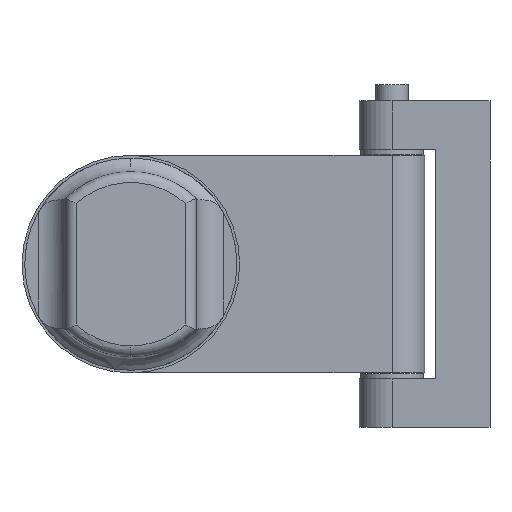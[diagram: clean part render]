
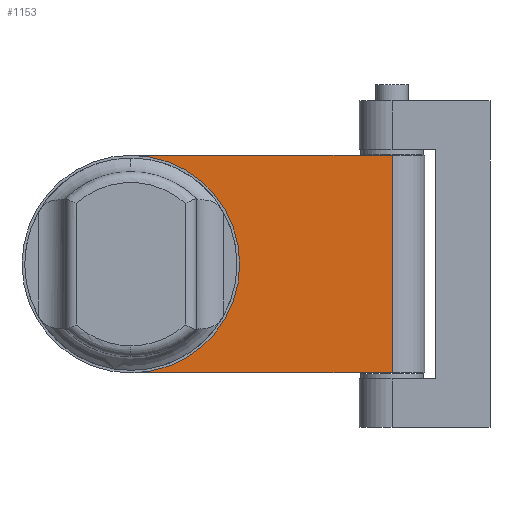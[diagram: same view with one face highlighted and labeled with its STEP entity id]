
A CAD part, front view. The second image highlights one B-rep face of the part: STEP entity #1153.
In plain terms, the highlighted planar face has unit normal (0, -1, 0).
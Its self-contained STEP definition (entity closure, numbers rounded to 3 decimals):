
#95 = ORIENTED_EDGE ( 'NONE', *, *, #2375, .F. ) ;
#216 = LINE ( 'NONE', #970, #2071 ) ;
#250 = CARTESIAN_POINT ( 'NONE',  ( 48., 0., -25. ) ) ;
#649 = FACE_OUTER_BOUND ( 'NONE', #1074, .T. ) ;
#680 = VERTEX_POINT ( 'NONE', #1614 ) ;
#744 = DIRECTION ( 'NONE',  ( 1., 0., 0. ) ) ;
#764 = LINE ( 'NONE', #250, #2384 ) ;
#778 = DIRECTION ( 'NONE',  ( 0., 0., -1. ) ) ;
#964 = DIRECTION ( 'NONE',  ( 0., 1., 0. ) ) ;
#970 = CARTESIAN_POINT ( 'NONE',  ( 0., 0., 20. ) ) ;
#1074 = EDGE_LOOP ( 'NONE', ( #95, #1492, #1574, #2707 ) ) ;
#1153 = ADVANCED_FACE ( 'NONE', ( #649 ), #2164, .F. ) ;
#1270 = LINE ( 'NONE', #2260, #2468 ) ;
#1314 = EDGE_CURVE ( 'NONE', #2427, #2196, #1270, .T. ) ;
#1492 = ORIENTED_EDGE ( 'NONE', *, *, #1981, .F. ) ;
#1564 = EDGE_CURVE ( 'NONE', #2196, #1925, #2366, .T. ) ;
#1574 = ORIENTED_EDGE ( 'NONE', *, *, #1564, .F. ) ;
#1613 = CARTESIAN_POINT ( 'NONE',  ( 0., 0., 20. ) ) ;
#1614 = CARTESIAN_POINT ( 'NONE',  ( 48., 0., 20. ) ) ;
#1626 = CARTESIAN_POINT ( 'NONE',  ( 0., 0., 0. ) ) ;
#1689 = DIRECTION ( 'NONE',  ( 0., 0., 1. ) ) ;
#1700 = CARTESIAN_POINT ( 'NONE',  ( 0., 0., -20. ) ) ;
#1919 = CARTESIAN_POINT ( 'NONE',  ( 48., 0., -20. ) ) ;
#1925 = VERTEX_POINT ( 'NONE', #1613 ) ;
#1971 = DIRECTION ( 'NONE',  ( -1., 0., 0. ) ) ;
#1981 = EDGE_CURVE ( 'NONE', #1925, #680, #216, .T. ) ;
#2071 = VECTOR ( 'NONE', #744, 1000. ) ;
#2164 = PLANE ( 'NONE',  #2815 ) ;
#2196 = VERTEX_POINT ( 'NONE', #1700 ) ;
#2206 = AXIS2_PLACEMENT_3D ( 'NONE', #2608, #2343, #2443 ) ;
#2260 = CARTESIAN_POINT ( 'NONE',  ( 0., 0., -20. ) ) ;
#2343 = DIRECTION ( 'NONE',  ( 0., 1., 0. ) ) ;
#2366 = CIRCLE ( 'NONE', #2206, 20. ) ;
#2375 = EDGE_CURVE ( 'NONE', #680, #2427, #764, .T. ) ;
#2384 = VECTOR ( 'NONE', #778, 1000. ) ;
#2427 = VERTEX_POINT ( 'NONE', #1919 ) ;
#2443 = DIRECTION ( 'NONE',  ( 0., 0., 1. ) ) ;
#2468 = VECTOR ( 'NONE', #1971, 1000. ) ;
#2608 = CARTESIAN_POINT ( 'NONE',  ( 0., 0., 0. ) ) ;
#2707 = ORIENTED_EDGE ( 'NONE', *, *, #1314, .F. ) ;
#2815 = AXIS2_PLACEMENT_3D ( 'NONE', #1626, #964, #1689 ) ;
